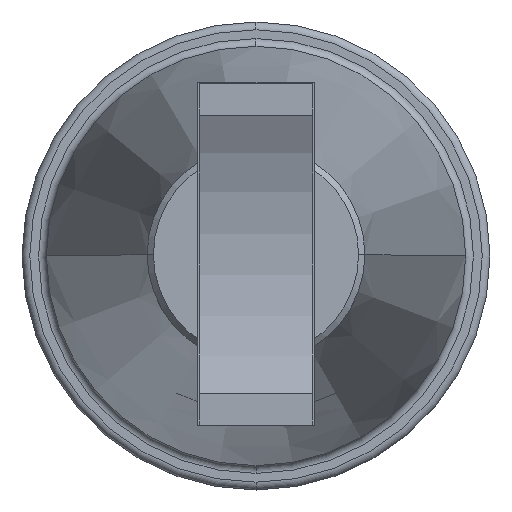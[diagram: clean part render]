
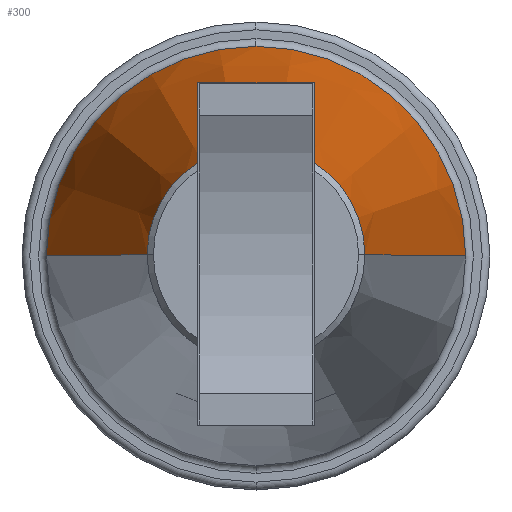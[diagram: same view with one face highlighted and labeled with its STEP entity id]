
A CAD part, top view. The second image highlights one B-rep face of the part: STEP entity #300.
In plain terms, the highlighted conical face has half-angle 7.768 degrees and reference radius 102.093 mm.
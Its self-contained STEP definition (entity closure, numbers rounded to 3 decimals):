
#300=ADVANCED_FACE('',(#627),#628,.T.);
#627=FACE_OUTER_BOUND('',#1013,.T.);
#628=CONICAL_SURFACE('',#1014,102.093,0.136);
#1013=EDGE_LOOP('',(#1702,#1703,#1704,#1705,#1706));
#1014=AXIS2_PLACEMENT_3D('',#1707,#1708,#1709);
#1702=ORIENTED_EDGE('',*,*,#2369,.T.);
#1703=ORIENTED_EDGE('',*,*,#2450,.F.);
#1704=ORIENTED_EDGE('',*,*,#2310,.F.);
#1705=ORIENTED_EDGE('',*,*,#2371,.T.);
#1706=ORIENTED_EDGE('',*,*,#2451,.T.);
#1707=CARTESIAN_POINT('',(408.211,528.029,-12.338));
#1708=DIRECTION('',(0.,0.,-1.0));
#1709=DIRECTION('',(1.0,0.,0.));
#2310=EDGE_CURVE('',#2745,#2747,#2748,.T.);
#2369=EDGE_CURVE('',#2852,#2853,#2854,.T.);
#2371=EDGE_CURVE('',#2745,#2855,#2857,.T.);
#2450=EDGE_CURVE('',#2747,#2853,#2981,.T.);
#2451=EDGE_CURVE('',#2855,#2852,#2982,.T.);
#2745=VERTEX_POINT('',#3458);
#2747=VERTEX_POINT('',#3460);
#2748=CIRCLE('',#3461,134.41);
#2852=VERTEX_POINT('',#3919);
#2853=VERTEX_POINT('',#3920);
#2854=LINE('',#3921,#3922);
#2855=VERTEX_POINT('',#3923);
#2857=LINE('',#3925,#3926);
#2981=CIRCLE('',#4410,134.41);
#2982=CIRCLE('',#4411,69.775);
#3458=CARTESIAN_POINT('',(273.801,528.029,-249.231));
#3460=CARTESIAN_POINT('',(408.211,662.439,-249.231));
#3461=AXIS2_PLACEMENT_3D('',#4788,#4789,#4790);
#3919=CARTESIAN_POINT('',(477.986,528.029,224.555));
#3920=CARTESIAN_POINT('',(542.621,528.029,-249.231));
#3921=CARTESIAN_POINT('',(510.304,528.029,-12.338));
#3922=VECTOR('',#4860,1.0);
#3923=CARTESIAN_POINT('',(338.435,528.029,224.555));
#3925=CARTESIAN_POINT('',(306.118,528.029,-12.338));
#3926=VECTOR('',#4864,1.0);
#4410=AXIS2_PLACEMENT_3D('',#4945,#4946,#4947);
#4411=AXIS2_PLACEMENT_3D('',#4948,#4949,#4950);
#4788=CARTESIAN_POINT('',(408.211,528.029,-249.231));
#4789=DIRECTION('',(0.,0.,-1.0));
#4790=DIRECTION('',(1.0,0.,0.));
#4860=DIRECTION('',(0.135,0.,-0.991));
#4864=DIRECTION('',(0.135,0.,0.991));
#4945=CARTESIAN_POINT('',(408.211,528.029,-249.231));
#4946=DIRECTION('',(0.,0.,-1.0));
#4947=DIRECTION('',(1.0,0.,0.));
#4948=CARTESIAN_POINT('',(408.211,528.029,224.555));
#4949=DIRECTION('',(0.,0.,-1.0));
#4950=DIRECTION('',(1.0,0.,0.));
